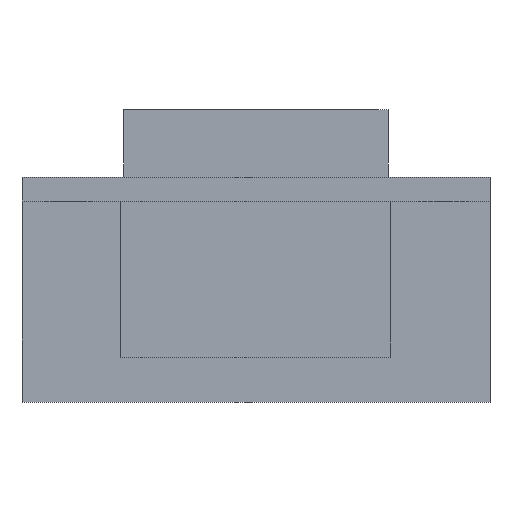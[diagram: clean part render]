
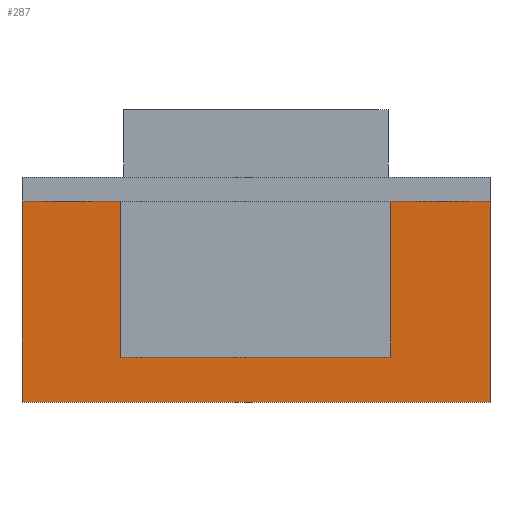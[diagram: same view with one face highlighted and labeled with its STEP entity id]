
A CAD part, top view. The second image highlights one B-rep face of the part: STEP entity #287.
In plain terms, the highlighted planar face has unit normal (0, 0, 1).
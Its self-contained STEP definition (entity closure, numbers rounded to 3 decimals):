
#98 = VERTEX_POINT('',#99);
#99 = CARTESIAN_POINT('',(-15.6,-15.,3.2));
#106 = PLANE('',#107);
#107 = AXIS2_PLACEMENT_3D('',#108,#109,#110);
#108 = CARTESIAN_POINT('',(-15.6,-15.,0.));
#109 = DIRECTION('',(1.,0.,0.));
#110 = DIRECTION('',(0.,0.,1.));
#118 = PLANE('',#119);
#119 = AXIS2_PLACEMENT_3D('',#120,#121,#122);
#120 = CARTESIAN_POINT('',(-15.6,-15.,0.));
#121 = DIRECTION('',(0.,1.,0.));
#122 = DIRECTION('',(0.,0.,1.));
#159 = VERTEX_POINT('',#160);
#160 = CARTESIAN_POINT('',(-15.6,-1.6,3.2));
#174 = PLANE('',#175);
#175 = AXIS2_PLACEMENT_3D('',#176,#177,#178);
#176 = CARTESIAN_POINT('',(-15.6,-1.6,0.));
#177 = DIRECTION('',(0.,1.,0.));
#178 = DIRECTION('',(0.,0.,1.));
#186 = EDGE_CURVE('',#98,#159,#187,.T.);
#187 = SURFACE_CURVE('',#188,(#192,#199),.PCURVE_S1.);
#188 = LINE('',#189,#190);
#189 = CARTESIAN_POINT('',(-15.6,-15.,3.2));
#190 = VECTOR('',#191,1.);
#191 = DIRECTION('',(0.,1.,0.));
#192 = PCURVE('',#106,#193);
#193 = DEFINITIONAL_REPRESENTATION('',(#194),#198);
#194 = LINE('',#195,#196);
#195 = CARTESIAN_POINT('',(3.2,0.));
#196 = VECTOR('',#197,1.);
#197 = DIRECTION('',(0.,-1.));
#198 = ( GEOMETRIC_REPRESENTATION_CONTEXT(2) 
PARAMETRIC_REPRESENTATION_CONTEXT() REPRESENTATION_CONTEXT('2D SPACE',''
  ) );
#199 = PCURVE('',#200,#205);
#200 = PLANE('',#201);
#201 = AXIS2_PLACEMENT_3D('',#202,#203,#204);
#202 = CARTESIAN_POINT('',(-15.6,-15.,3.2));
#203 = DIRECTION('',(0.,0.,1.));
#204 = DIRECTION('',(1.,0.,0.));
#205 = DEFINITIONAL_REPRESENTATION('',(#206),#210);
#206 = LINE('',#207,#208);
#207 = CARTESIAN_POINT('',(0.,0.));
#208 = VECTOR('',#209,1.);
#209 = DIRECTION('',(0.,1.));
#210 = ( GEOMETRIC_REPRESENTATION_CONTEXT(2) 
PARAMETRIC_REPRESENTATION_CONTEXT() REPRESENTATION_CONTEXT('2D SPACE',''
  ) );
#239 = EDGE_CURVE('',#98,#240,#242,.T.);
#240 = VERTEX_POINT('',#241);
#241 = CARTESIAN_POINT('',(15.6,-15.,3.2));
#242 = SURFACE_CURVE('',#243,(#247,#254),.PCURVE_S1.);
#243 = LINE('',#244,#245);
#244 = CARTESIAN_POINT('',(-15.6,-15.,3.2));
#245 = VECTOR('',#246,1.);
#246 = DIRECTION('',(1.,0.,0.));
#247 = PCURVE('',#118,#248);
#248 = DEFINITIONAL_REPRESENTATION('',(#249),#253);
#249 = LINE('',#250,#251);
#250 = CARTESIAN_POINT('',(3.2,0.));
#251 = VECTOR('',#252,1.);
#252 = DIRECTION('',(0.,1.));
#253 = ( GEOMETRIC_REPRESENTATION_CONTEXT(2) 
PARAMETRIC_REPRESENTATION_CONTEXT() REPRESENTATION_CONTEXT('2D SPACE',''
  ) );
#254 = PCURVE('',#200,#255);
#255 = DEFINITIONAL_REPRESENTATION('',(#256),#260);
#256 = LINE('',#257,#258);
#257 = CARTESIAN_POINT('',(0.,0.));
#258 = VECTOR('',#259,1.);
#259 = DIRECTION('',(1.,0.));
#260 = ( GEOMETRIC_REPRESENTATION_CONTEXT(2) 
PARAMETRIC_REPRESENTATION_CONTEXT() REPRESENTATION_CONTEXT('2D SPACE',''
  ) );
#276 = PLANE('',#277);
#277 = AXIS2_PLACEMENT_3D('',#278,#279,#280);
#278 = CARTESIAN_POINT('',(15.6,-15.,0.));
#279 = DIRECTION('',(1.,0.,0.));
#280 = DIRECTION('',(0.,0.,1.));
#287 = ADVANCED_FACE('',(#288),#200,.T.);
#288 = FACE_BOUND('',#289,.T.);
#289 = EDGE_LOOP('',(#290,#313,#314,#315,#338,#361,#389,#417));
#290 = ORIENTED_EDGE('',*,*,#291,.F.);
#291 = EDGE_CURVE('',#159,#292,#294,.T.);
#292 = VERTEX_POINT('',#293);
#293 = CARTESIAN_POINT('',(-9.,-1.6,3.2));
#294 = SURFACE_CURVE('',#295,(#299,#306),.PCURVE_S1.);
#295 = LINE('',#296,#297);
#296 = CARTESIAN_POINT('',(-15.6,-1.6,3.2));
#297 = VECTOR('',#298,1.);
#298 = DIRECTION('',(1.,0.,0.));
#299 = PCURVE('',#200,#300);
#300 = DEFINITIONAL_REPRESENTATION('',(#301),#305);
#301 = LINE('',#302,#303);
#302 = CARTESIAN_POINT('',(0.,13.4));
#303 = VECTOR('',#304,1.);
#304 = DIRECTION('',(1.,0.));
#305 = ( GEOMETRIC_REPRESENTATION_CONTEXT(2) 
PARAMETRIC_REPRESENTATION_CONTEXT() REPRESENTATION_CONTEXT('2D SPACE',''
  ) );
#306 = PCURVE('',#174,#307);
#307 = DEFINITIONAL_REPRESENTATION('',(#308),#312);
#308 = LINE('',#309,#310);
#309 = CARTESIAN_POINT('',(3.2,0.));
#310 = VECTOR('',#311,1.);
#311 = DIRECTION('',(0.,1.));
#312 = ( GEOMETRIC_REPRESENTATION_CONTEXT(2) 
PARAMETRIC_REPRESENTATION_CONTEXT() REPRESENTATION_CONTEXT('2D SPACE',''
  ) );
#313 = ORIENTED_EDGE('',*,*,#186,.F.);
#314 = ORIENTED_EDGE('',*,*,#239,.T.);
#315 = ORIENTED_EDGE('',*,*,#316,.T.);
#316 = EDGE_CURVE('',#240,#317,#319,.T.);
#317 = VERTEX_POINT('',#318);
#318 = CARTESIAN_POINT('',(15.6,-1.6,3.2));
#319 = SURFACE_CURVE('',#320,(#324,#331),.PCURVE_S1.);
#320 = LINE('',#321,#322);
#321 = CARTESIAN_POINT('',(15.6,-15.,3.2));
#322 = VECTOR('',#323,1.);
#323 = DIRECTION('',(0.,1.,0.));
#324 = PCURVE('',#200,#325);
#325 = DEFINITIONAL_REPRESENTATION('',(#326),#330);
#326 = LINE('',#327,#328);
#327 = CARTESIAN_POINT('',(31.2,0.));
#328 = VECTOR('',#329,1.);
#329 = DIRECTION('',(0.,1.));
#330 = ( GEOMETRIC_REPRESENTATION_CONTEXT(2) 
PARAMETRIC_REPRESENTATION_CONTEXT() REPRESENTATION_CONTEXT('2D SPACE',''
  ) );
#331 = PCURVE('',#276,#332);
#332 = DEFINITIONAL_REPRESENTATION('',(#333),#337);
#333 = LINE('',#334,#335);
#334 = CARTESIAN_POINT('',(3.2,0.));
#335 = VECTOR('',#336,1.);
#336 = DIRECTION('',(0.,-1.));
#337 = ( GEOMETRIC_REPRESENTATION_CONTEXT(2) 
PARAMETRIC_REPRESENTATION_CONTEXT() REPRESENTATION_CONTEXT('2D SPACE',''
  ) );
#338 = ORIENTED_EDGE('',*,*,#339,.F.);
#339 = EDGE_CURVE('',#340,#317,#342,.T.);
#340 = VERTEX_POINT('',#341);
#341 = CARTESIAN_POINT('',(9.,-1.6,3.2));
#342 = SURFACE_CURVE('',#343,(#347,#354),.PCURVE_S1.);
#343 = LINE('',#344,#345);
#344 = CARTESIAN_POINT('',(-15.6,-1.6,3.2));
#345 = VECTOR('',#346,1.);
#346 = DIRECTION('',(1.,0.,0.));
#347 = PCURVE('',#200,#348);
#348 = DEFINITIONAL_REPRESENTATION('',(#349),#353);
#349 = LINE('',#350,#351);
#350 = CARTESIAN_POINT('',(0.,13.4));
#351 = VECTOR('',#352,1.);
#352 = DIRECTION('',(1.,0.));
#353 = ( GEOMETRIC_REPRESENTATION_CONTEXT(2) 
PARAMETRIC_REPRESENTATION_CONTEXT() REPRESENTATION_CONTEXT('2D SPACE',''
  ) );
#354 = PCURVE('',#174,#355);
#355 = DEFINITIONAL_REPRESENTATION('',(#356),#360);
#356 = LINE('',#357,#358);
#357 = CARTESIAN_POINT('',(3.2,0.));
#358 = VECTOR('',#359,1.);
#359 = DIRECTION('',(0.,1.));
#360 = ( GEOMETRIC_REPRESENTATION_CONTEXT(2) 
PARAMETRIC_REPRESENTATION_CONTEXT() REPRESENTATION_CONTEXT('2D SPACE',''
  ) );
#361 = ORIENTED_EDGE('',*,*,#362,.F.);
#362 = EDGE_CURVE('',#363,#340,#365,.T.);
#363 = VERTEX_POINT('',#364);
#364 = CARTESIAN_POINT('',(9.,-12.,3.2));
#365 = SURFACE_CURVE('',#366,(#370,#377),.PCURVE_S1.);
#366 = LINE('',#367,#368);
#367 = CARTESIAN_POINT('',(9.,-12.,3.2));
#368 = VECTOR('',#369,1.);
#369 = DIRECTION('',(0.,1.,0.));
#370 = PCURVE('',#200,#371);
#371 = DEFINITIONAL_REPRESENTATION('',(#372),#376);
#372 = LINE('',#373,#374);
#373 = CARTESIAN_POINT('',(24.6,3.));
#374 = VECTOR('',#375,1.);
#375 = DIRECTION('',(0.,1.));
#376 = ( GEOMETRIC_REPRESENTATION_CONTEXT(2) 
PARAMETRIC_REPRESENTATION_CONTEXT() REPRESENTATION_CONTEXT('2D SPACE',''
  ) );
#377 = PCURVE('',#378,#383);
#378 = PLANE('',#379);
#379 = AXIS2_PLACEMENT_3D('',#380,#381,#382);
#380 = CARTESIAN_POINT('',(9.,-12.,3.2));
#381 = DIRECTION('',(1.,0.,0.));
#382 = DIRECTION('',(0.,0.,1.));
#383 = DEFINITIONAL_REPRESENTATION('',(#384),#388);
#384 = LINE('',#385,#386);
#385 = CARTESIAN_POINT('',(0.,0.));
#386 = VECTOR('',#387,1.);
#387 = DIRECTION('',(0.,-1.));
#388 = ( GEOMETRIC_REPRESENTATION_CONTEXT(2) 
PARAMETRIC_REPRESENTATION_CONTEXT() REPRESENTATION_CONTEXT('2D SPACE',''
  ) );
#389 = ORIENTED_EDGE('',*,*,#390,.F.);
#390 = EDGE_CURVE('',#391,#363,#393,.T.);
#391 = VERTEX_POINT('',#392);
#392 = CARTESIAN_POINT('',(-9.,-12.,3.2));
#393 = SURFACE_CURVE('',#394,(#398,#405),.PCURVE_S1.);
#394 = LINE('',#395,#396);
#395 = CARTESIAN_POINT('',(-9.,-12.,3.2));
#396 = VECTOR('',#397,1.);
#397 = DIRECTION('',(1.,0.,0.));
#398 = PCURVE('',#200,#399);
#399 = DEFINITIONAL_REPRESENTATION('',(#400),#404);
#400 = LINE('',#401,#402);
#401 = CARTESIAN_POINT('',(6.6,3.));
#402 = VECTOR('',#403,1.);
#403 = DIRECTION('',(1.,0.));
#404 = ( GEOMETRIC_REPRESENTATION_CONTEXT(2) 
PARAMETRIC_REPRESENTATION_CONTEXT() REPRESENTATION_CONTEXT('2D SPACE',''
  ) );
#405 = PCURVE('',#406,#411);
#406 = PLANE('',#407);
#407 = AXIS2_PLACEMENT_3D('',#408,#409,#410);
#408 = CARTESIAN_POINT('',(-9.,-12.,3.2));
#409 = DIRECTION('',(0.,1.,0.));
#410 = DIRECTION('',(0.,0.,1.));
#411 = DEFINITIONAL_REPRESENTATION('',(#412),#416);
#412 = LINE('',#413,#414);
#413 = CARTESIAN_POINT('',(0.,0.));
#414 = VECTOR('',#415,1.);
#415 = DIRECTION('',(0.,1.));
#416 = ( GEOMETRIC_REPRESENTATION_CONTEXT(2) 
PARAMETRIC_REPRESENTATION_CONTEXT() REPRESENTATION_CONTEXT('2D SPACE',''
  ) );
#417 = ORIENTED_EDGE('',*,*,#418,.T.);
#418 = EDGE_CURVE('',#391,#292,#419,.T.);
#419 = SURFACE_CURVE('',#420,(#424,#431),.PCURVE_S1.);
#420 = LINE('',#421,#422);
#421 = CARTESIAN_POINT('',(-9.,-12.,3.2));
#422 = VECTOR('',#423,1.);
#423 = DIRECTION('',(0.,1.,0.));
#424 = PCURVE('',#200,#425);
#425 = DEFINITIONAL_REPRESENTATION('',(#426),#430);
#426 = LINE('',#427,#428);
#427 = CARTESIAN_POINT('',(6.6,3.));
#428 = VECTOR('',#429,1.);
#429 = DIRECTION('',(0.,1.));
#430 = ( GEOMETRIC_REPRESENTATION_CONTEXT(2) 
PARAMETRIC_REPRESENTATION_CONTEXT() REPRESENTATION_CONTEXT('2D SPACE',''
  ) );
#431 = PCURVE('',#432,#437);
#432 = PLANE('',#433);
#433 = AXIS2_PLACEMENT_3D('',#434,#435,#436);
#434 = CARTESIAN_POINT('',(-9.,-12.,3.2));
#435 = DIRECTION('',(1.,0.,0.));
#436 = DIRECTION('',(0.,0.,1.));
#437 = DEFINITIONAL_REPRESENTATION('',(#438),#442);
#438 = LINE('',#439,#440);
#439 = CARTESIAN_POINT('',(0.,0.));
#440 = VECTOR('',#441,1.);
#441 = DIRECTION('',(0.,-1.));
#442 = ( GEOMETRIC_REPRESENTATION_CONTEXT(2) 
PARAMETRIC_REPRESENTATION_CONTEXT() REPRESENTATION_CONTEXT('2D SPACE',''
  ) );
